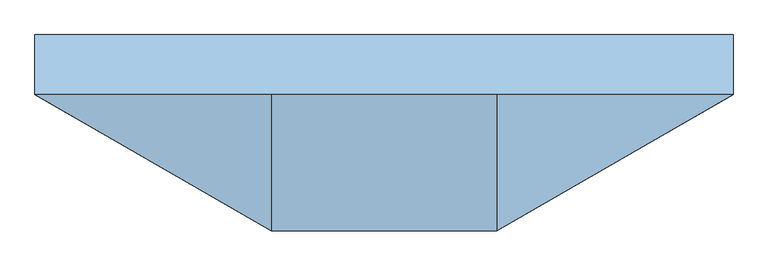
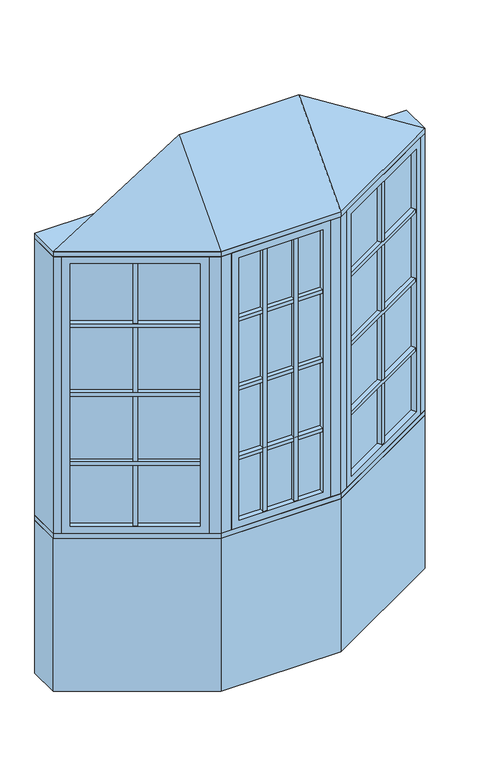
"""IFC4 building model written with IfcOpenShell, lengths in millimetres: window geometry, Pollard_Windows_Tudor Casement Bows and Bays : AML-BAY 30 AFR0514-08-600_GC."""

from ifc_helpers import new_model, si_unit, frame, origin, origin_with_axes, place, context, project, spatial, polyline, outline, extrude, faceted_brep, source, transform, mapped, element, save


def window_0ddc0329(model_context):
    return source(origin(), model_context, "Body", "SolidModel", [
        extrude(outline(polyline([(360.381999, -376.6297343), (349.381999, -357.5771754), (815.6135794, -88.3982469), (826.6135794, -107.4508058), (360.381999, -376.6297343)])), frame((0.0, 0.0, 1490.998), z_axis=(0.0, 0.0, 1.0), x_axis=(1.0, 0.0, 0.0)), (0.0, 0.0, 1.0), 18.0),
        extrude(outline(polyline([(346.841999, -353.1777664), (335.841999, -334.1252075), (802.0735794, -64.946279), (813.0735794, -83.9988379), (346.841999, -353.1777664)])), frame((0.0, 0.0, 1490.998), z_axis=(0.0, 0.0, 1.0), x_axis=(1.0, 0.0, 0.0)), (0.0, 0.0, 1.0), 18.0),
        extrude(outline(polyline([(360.381999, -376.6297343), (349.381999, -357.5771754), (815.6135794, -88.3982469), (826.6135794, -107.4508058), (360.381999, -376.6297343)])), frame((0.0, 0.0, 1140.998), z_axis=(0.0, 0.0, 1.0), x_axis=(1.0, 0.0, 0.0)), (0.0, 0.0, 1.0), 18.0),
        extrude(outline(polyline([(346.841999, -353.1777664), (335.841999, -334.1252075), (802.0735794, -64.946279), (813.0735794, -83.9988379), (346.841999, -353.1777664)])), frame((0.0, 0.0, 1140.998), z_axis=(0.0, 0.0, 1.0), x_axis=(1.0, 0.0, 0.0)), (0.0, 0.0, 1.0), 18.0),
        extrude(outline(polyline([(360.381999, -376.6297343), (349.381999, -357.5771754), (815.6135794, -88.3982469), (826.6135794, -107.4508058), (360.381999, -376.6297343)])), frame((0.0, 0.0, 1490.998), z_axis=(0.0, 0.0, 1.0), x_axis=(1.0, 0.0, 0.0)), (0.0, 0.0, 1.0), 18.0),
        extrude(outline(polyline([(346.841999, -353.1777664), (335.841999, -334.1252075), (802.0735794, -64.946279), (813.0735794, -83.9988379), (346.841999, -353.1777664)])), frame((0.0, 0.0, 1490.998), z_axis=(0.0, 0.0, 1.0), x_axis=(1.0, 0.0, 0.0)), (0.0, 0.0, 1.0), 18.0),
        extrude(outline(polyline([(360.381999, -376.6297343), (349.381999, -357.5771754), (815.6135794, -88.3982469), (826.6135794, -107.4508058), (360.381999, -376.6297343)])), frame((0.0, 0.0, 1490.998), z_axis=(0.0, 0.0, 1.0), x_axis=(1.0, 0.0, 0.0)), (0.0, 0.0, 1.0), 18.0),
        extrude(outline(polyline([(346.841999, -353.1777664), (335.841999, -334.1252075), (802.0735794, -64.946279), (813.0735794, -83.9988379), (346.841999, -353.1777664)])), frame((0.0, 0.0, 1490.998), z_axis=(0.0, 0.0, 1.0), x_axis=(1.0, 0.0, 0.0)), (0.0, 0.0, 1.0), 18.0),
        extrude(outline(polyline([(360.381999, -376.6297343), (349.381999, -357.5771754), (815.6135794, -88.3982469), (826.6135794, -107.4508058), (360.381999, -376.6297343)])), frame((0.0, 0.0, 1840.998), z_axis=(0.0, 0.0, 1.0), x_axis=(1.0, 0.0, 0.0)), (0.0, 0.0, 1.0), 18.0),
        extrude(outline(polyline([(346.841999, -353.1777664), (335.841999, -334.1252075), (802.0735794, -64.946279), (813.0735794, -83.9988379), (346.841999, -353.1777664)])), frame((0.0, 0.0, 1840.998), z_axis=(0.0, 0.0, 1.0), x_axis=(1.0, 0.0, 0.0)), (0.0, 0.0, 1.0), 18.0),
        extrude(outline(polyline([(590.2920178, -218.4877112), (601.2920178, -237.5402701), (585.7035606, -246.5402701), (574.7035606, -227.4877112), (590.2920178, -218.4877112)])), frame((0.0, 0.0, 835.8628), z_axis=(0.0, 0.0, 1.0), x_axis=(1.0, 0.0, 0.0)), (0.0, 0.0, 1.0), 1328.2704),
        extrude(outline(polyline([(587.7520178, -214.0883021), (572.1635606, -223.0883021), (561.1635606, -204.0357432), (576.7520178, -195.0357432), (587.7520178, -214.0883021)])), frame((0.0, 0.0, 835.8628), z_axis=(0.0, 0.0, 1.0), x_axis=(1.0, 0.0, 0.0)), (0.0, 0.0, 1.0), 1328.2704),
        extrude(outline(polyline([(826.612102, -82.0482469), (338.3834764, -363.9271754), (335.8434764, -359.5277664), (824.072102, -77.6488379), (826.612102, -82.0482469)])), frame((0.0, 0.0, 823.1628), z_axis=(0.0, 0.0, 1.0), x_axis=(1.0, 0.0, 0.0)), (0.0, 0.0, 1.0), 1353.6704),
        faceted_brep([(815.6135794, -88.3982469, 835.8628), (828.3135794, -110.3952922, 835.8628), (828.3135794, -110.3952922, 2164.1332), (815.6135794, -88.3982469, 2164.1332), (824.072102, -77.6488379, 823.1628), (826.612102, -82.0482469, 823.1628), (826.612102, -82.0482469, 2176.8332), (824.072102, -77.6488379, 2176.8332), (800.3735794, -62.0017926, 835.8628), (813.0735794, -83.9988379, 835.8628), (813.0735794, -83.9988379, 2164.1332), (800.3735794, -62.0017926, 2164.1332), (859.3734073, -92.4628922, 799.998), (831.4334073, -44.0693926, 799.998), (831.4334073, -44.0693926, 2199.998), (859.3734073, -92.4628922, 2199.998), (362.081999, -379.5742207, 2164.1332), (349.381999, -357.5771754, 2164.1332), (338.3834764, -363.9271754, 2176.8332), (335.8434764, -359.5277664, 2176.8332), (346.841999, -353.1777664, 2164.1332), (334.141999, -331.1807211, 2164.1332), (303.0821711, -349.1131211, 2199.998), (331.0221711, -397.5066207, 2199.998), (362.081999, -379.5742207, 835.8628), (349.381999, -357.5771754, 835.8628), (338.3834764, -363.9271754, 823.1628), (335.8434764, -359.5277664, 823.1628), (346.841999, -353.1777664, 835.8628), (334.141999, -331.1807211, 835.8628), (303.0821711, -349.1131211, 799.998), (331.0221711, -397.5066207, 799.998)], [[[0, 1, 2, 3]], [[4, 5, 6, 7]], [[8, 9, 10, 11]], [[12, 13, 14, 15]], [[3, 2, 16, 17]], [[7, 6, 18, 19]], [[11, 10, 20, 21]], [[15, 14, 22, 23]], [[17, 16, 24, 25]], [[19, 18, 26, 27]], [[21, 20, 28, 29]], [[23, 22, 30, 31]], [[25, 24, 1, 0]], [[5, 26, 18, 6], [3, 17, 25, 0]], [[27, 26, 5, 4]], [[7, 19, 27, 4], [9, 28, 20, 10]], [[29, 28, 9, 8]], [[13, 30, 22, 14], [11, 21, 29, 8]], [[31, 30, 13, 12]], [[15, 23, 31, 12], [1, 24, 16, 2]]]),
        extrude(outline(polyline([(83.5188336, -397.1066207), (83.5188336, -419.1066207), (65.5188336, -419.1066207), (65.5188336, -397.1066207), (83.5188336, -397.1066207)])), frame((0.0, 0.0, 835.8628), z_axis=(0.0, 0.0, 1.0), x_axis=(1.0, 0.0, 0.0)), (0.0, 0.0, 1.0), 1328.2704),
        extrude(outline(polyline([(83.5188336, -392.0266207), (65.5188336, -392.0266207), (65.5188336, -370.0266207), (83.5188336, -370.0266207), (83.5188336, -392.0266207)])), frame((0.0, 0.0, 835.8628), z_axis=(0.0, 0.0, 1.0), x_axis=(1.0, 0.0, 0.0)), (0.0, 0.0, 1.0), 1328.2704),
        extrude(outline(polyline([(-65.5188336, -397.1066207), (-65.5188336, -419.1066207), (-83.5188336, -419.1066207), (-83.5188336, -397.1066207), (-65.5188336, -397.1066207)])), frame((0.0, 0.0, 835.8628), z_axis=(0.0, 0.0, 1.0), x_axis=(1.0, 0.0, 0.0)), (0.0, 0.0, 1.0), 1328.2704),
        extrude(outline(polyline([(-65.5188336, -392.0266207), (-83.5188336, -392.0266207), (-83.5188336, -370.0266207), (-65.5188336, -370.0266207), (-65.5188336, -392.0266207)])), frame((0.0, 0.0, 835.8628), z_axis=(0.0, 0.0, 1.0), x_axis=(1.0, 0.0, 0.0)), (0.0, 0.0, 1.0), 1328.2704),
        extrude(outline(polyline([(-201.8561009, -419.1066207), (-201.8561009, -397.1066207), (201.8561009, -397.1066207), (201.8561009, -419.1066207), (-201.8561009, -419.1066207)])), frame((0.0, 0.0, 1140.998), z_axis=(0.0, 0.0, 1.0), x_axis=(1.0, 0.0, 0.0)), (0.0, 0.0, 1.0), 18.0),
        extrude(outline(polyline([(-201.8561009, -392.0266207), (-201.8561009, -370.0266207), (201.8561009, -370.0266207), (201.8561009, -392.0266207), (-201.8561009, -392.0266207)])), frame((0.0, 0.0, 1140.998), z_axis=(0.0, 0.0, 1.0), x_axis=(1.0, 0.0, 0.0)), (0.0, 0.0, 1.0), 18.0),
        extrude(outline(polyline([(-201.8561009, -419.1066207), (-201.8561009, -397.1066207), (201.8561009, -397.1066207), (201.8561009, -419.1066207), (-201.8561009, -419.1066207)])), frame((0.0, 0.0, 1490.998), z_axis=(0.0, 0.0, 1.0), x_axis=(1.0, 0.0, 0.0)), (0.0, 0.0, 1.0), 18.0),
        extrude(outline(polyline([(-201.8561009, -392.0266207), (-201.8561009, -370.0266207), (201.8561009, -370.0266207), (201.8561009, -392.0266207), (-201.8561009, -392.0266207)])), frame((0.0, 0.0, 1490.998), z_axis=(0.0, 0.0, 1.0), x_axis=(1.0, 0.0, 0.0)), (0.0, 0.0, 1.0), 18.0),
        extrude(outline(polyline([(-201.8561009, -419.1066207), (-201.8561009, -397.1066207), (201.8561009, -397.1066207), (201.8561009, -419.1066207), (-201.8561009, -419.1066207)])), frame((0.0, 0.0, 1490.998), z_axis=(0.0, 0.0, 1.0), x_axis=(1.0, 0.0, 0.0)), (0.0, 0.0, 1.0), 18.0),
        extrude(outline(polyline([(-201.8561009, -392.0266207), (-201.8561009, -370.0266207), (201.8561009, -370.0266207), (201.8561009, -392.0266207), (-201.8561009, -392.0266207)])), frame((0.0, 0.0, 1490.998), z_axis=(0.0, 0.0, 1.0), x_axis=(1.0, 0.0, 0.0)), (0.0, 0.0, 1.0), 18.0),
        extrude(outline(polyline([(-201.8561009, -419.1066207), (-201.8561009, -397.1066207), (201.8561009, -397.1066207), (201.8561009, -419.1066207), (-201.8561009, -419.1066207)])), frame((0.0, 0.0, 1490.998), z_axis=(0.0, 0.0, 1.0), x_axis=(1.0, 0.0, 0.0)), (0.0, 0.0, 1.0), 18.0),
        extrude(outline(polyline([(-201.8561009, -392.0266207), (-201.8561009, -370.0266207), (201.8561009, -370.0266207), (201.8561009, -392.0266207), (-201.8561009, -392.0266207)])), frame((0.0, 0.0, 1490.998), z_axis=(0.0, 0.0, 1.0), x_axis=(1.0, 0.0, 0.0)), (0.0, 0.0, 1.0), 18.0),
        extrude(outline(polyline([(-826.6135794, -107.4508058), (-815.6135794, -88.3982469), (-349.381999, -357.5771754), (-360.381999, -376.6297343), (-826.6135794, -107.4508058)])), frame((0.0, 0.0, 1140.998), z_axis=(0.0, 0.0, 1.0), x_axis=(1.0, 0.0, 0.0)), (0.0, 0.0, 1.0), 18.0),
        extrude(outline(polyline([(-813.0735794, -83.9988379), (-802.0735794, -64.946279), (-335.841999, -334.1252075), (-346.841999, -353.1777664), (-813.0735794, -83.9988379)])), frame((0.0, 0.0, 1140.998), z_axis=(0.0, 0.0, 1.0), x_axis=(1.0, 0.0, 0.0)), (0.0, 0.0, 1.0), 18.0),
        extrude(outline(polyline([(-826.6135794, -107.4508058), (-815.6135794, -88.3982469), (-349.381999, -357.5771754), (-360.381999, -376.6297343), (-826.6135794, -107.4508058)])), frame((0.0, 0.0, 1490.998), z_axis=(0.0, 0.0, 1.0), x_axis=(1.0, 0.0, 0.0)), (0.0, 0.0, 1.0), 18.0),
        extrude(outline(polyline([(-813.0735794, -83.9988379), (-802.0735794, -64.946279), (-335.841999, -334.1252075), (-346.841999, -353.1777664), (-813.0735794, -83.9988379)])), frame((0.0, 0.0, 1490.998), z_axis=(0.0, 0.0, 1.0), x_axis=(1.0, 0.0, 0.0)), (0.0, 0.0, 1.0), 18.0),
        extrude(outline(polyline([(-826.6135794, -107.4508058), (-815.6135794, -88.3982469), (-349.381999, -357.5771754), (-360.381999, -376.6297343), (-826.6135794, -107.4508058)])), frame((0.0, 0.0, 1490.998), z_axis=(0.0, 0.0, 1.0), x_axis=(1.0, 0.0, 0.0)), (0.0, 0.0, 1.0), 18.0),
        extrude(outline(polyline([(-813.0735794, -83.9988379), (-802.0735794, -64.946279), (-335.841999, -334.1252075), (-346.841999, -353.1777664), (-813.0735794, -83.9988379)])), frame((0.0, 0.0, 1490.998), z_axis=(0.0, 0.0, 1.0), x_axis=(1.0, 0.0, 0.0)), (0.0, 0.0, 1.0), 18.0),
        extrude(outline(polyline([(-826.6135794, -107.4508058), (-815.6135794, -88.3982469), (-349.381999, -357.5771754), (-360.381999, -376.6297343), (-826.6135794, -107.4508058)])), frame((0.0, 0.0, 1490.998), z_axis=(0.0, 0.0, 1.0), x_axis=(1.0, 0.0, 0.0)), (0.0, 0.0, 1.0), 18.0),
        extrude(outline(polyline([(-813.0735794, -83.9988379), (-802.0735794, -64.946279), (-335.841999, -334.1252075), (-346.841999, -353.1777664), (-813.0735794, -83.9988379)])), frame((0.0, 0.0, 1490.998), z_axis=(0.0, 0.0, 1.0), x_axis=(1.0, 0.0, 0.0)), (0.0, 0.0, 1.0), 18.0),
        extrude(outline(polyline([(-826.6135794, -107.4508058), (-815.6135794, -88.3982469), (-349.381999, -357.5771754), (-360.381999, -376.6297343), (-826.6135794, -107.4508058)])), frame((0.0, 0.0, 1840.998), z_axis=(0.0, 0.0, 1.0), x_axis=(1.0, 0.0, 0.0)), (0.0, 0.0, 1.0), 18.0),
        extrude(outline(polyline([(-813.0735794, -83.9988379), (-802.0735794, -64.946279), (-335.841999, -334.1252075), (-346.841999, -353.1777664), (-813.0735794, -83.9988379)])), frame((0.0, 0.0, 1840.998), z_axis=(0.0, 0.0, 1.0), x_axis=(1.0, 0.0, 0.0)), (0.0, 0.0, 1.0), 18.0),
        extrude(outline(polyline([(-201.8561009, -419.1066207), (-201.8561009, -397.1066207), (201.8561009, -397.1066207), (201.8561009, -419.1066207), (-201.8561009, -419.1066207)])), frame((0.0, 0.0, 1840.998), z_axis=(0.0, 0.0, 1.0), x_axis=(1.0, 0.0, 0.0)), (0.0, 0.0, 1.0), 18.0),
        extrude(outline(polyline([(-201.8561009, -392.0266207), (-201.8561009, -370.0266207), (201.8561009, -370.0266207), (201.8561009, -392.0266207), (-201.8561009, -392.0266207)])), frame((0.0, 0.0, 1840.998), z_axis=(0.0, 0.0, 1.0), x_axis=(1.0, 0.0, 0.0)), (0.0, 0.0, 1.0), 18.0),
        extrude(outline(polyline([(-574.7035606, -227.4877112), (-585.7035606, -246.5402701), (-601.2920178, -237.5402701), (-590.2920178, -218.4877112), (-574.7035606, -227.4877112)])), frame((0.0, 0.0, 835.8628), z_axis=(0.0, 0.0, 1.0), x_axis=(1.0, 0.0, 0.0)), (0.0, 0.0, 1.0), 1328.2704),
        extrude(outline(polyline([(-572.1635606, -223.0883021), (-587.7520178, -214.0883021), (-576.7520178, -195.0357432), (-561.1635606, -204.0357432), (-572.1635606, -223.0883021)])), frame((0.0, 0.0, 835.8628), z_axis=(0.0, 0.0, 1.0), x_axis=(1.0, 0.0, 0.0)), (0.0, 0.0, 1.0), 1328.2704),
        extrude(outline(polyline([(-338.3834764, -363.9271754), (-826.612102, -82.0482469), (-824.072102, -77.6488379), (-335.8434764, -359.5277664), (-338.3834764, -363.9271754)])), frame((0.0, 0.0, 823.1628), z_axis=(0.0, 0.0, 1.0), x_axis=(1.0, 0.0, 0.0)), (0.0, 0.0, 1.0), 1353.6704),
        faceted_brep([(-346.841999, -353.1777664, 2164.1332), (-334.141999, -331.1807211, 2164.1332), (-334.141999, -331.1807211, 835.8628), (-346.841999, -353.1777664, 835.8628), (-338.3834764, -363.9271754, 2176.8332), (-335.8434764, -359.5277664, 2176.8332), (-335.8434764, -359.5277664, 823.1628), (-338.3834764, -363.9271754, 823.1628), (-362.081999, -379.5742207, 2164.1332), (-349.381999, -357.5771754, 2164.1332), (-349.381999, -357.5771754, 835.8628), (-362.081999, -379.5742207, 835.8628), (-303.0821711, -349.1131211, 2199.998), (-331.0221711, -397.5066207, 2199.998), (-331.0221711, -397.5066207, 799.998), (-303.0821711, -349.1131211, 799.998), (-800.3735794, -62.0017926, 835.8628), (-813.0735794, -83.9988379, 835.8628), (-824.072102, -77.6488379, 823.1628), (-826.612102, -82.0482469, 823.1628), (-815.6135794, -88.3982469, 835.8628), (-828.3135794, -110.3952922, 835.8628), (-859.3734073, -92.4628922, 799.998), (-831.4334073, -44.0693926, 799.998), (-800.3735794, -62.0017926, 2164.1332), (-813.0735794, -83.9988379, 2164.1332), (-824.072102, -77.6488379, 2176.8332), (-826.612102, -82.0482469, 2176.8332), (-815.6135794, -88.3982469, 2164.1332), (-828.3135794, -110.3952922, 2164.1332), (-859.3734073, -92.4628922, 2199.998), (-831.4334073, -44.0693926, 2199.998)], [[[0, 1, 2, 3]], [[4, 5, 6, 7]], [[8, 9, 10, 11]], [[12, 13, 14, 15]], [[3, 2, 16, 17]], [[7, 6, 18, 19]], [[11, 10, 20, 21]], [[15, 14, 22, 23]], [[17, 16, 24, 25]], [[19, 18, 26, 27]], [[21, 20, 28, 29]], [[23, 22, 30, 31]], [[15, 23, 31, 12], [1, 24, 16, 2]], [[25, 24, 1, 0]], [[5, 26, 18, 6], [3, 17, 25, 0]], [[27, 26, 5, 4]], [[7, 19, 27, 4], [9, 28, 20, 10]], [[29, 28, 9, 8]], [[13, 30, 22, 14], [11, 21, 29, 8]], [[31, 30, 13, 12]]]),
        extrude(outline(polyline([(214.5561009, -397.1066207), (-214.5561009, -397.1066207), (-214.5561009, -392.0266207), (214.5561009, -392.0266207), (214.5561009, -397.1066207)])), frame((0.0, 0.0, 823.1628), z_axis=(0.0, 0.0, 1.0), x_axis=(1.0, 0.0, 0.0)), (0.0, 0.0, 1.0), 1353.6704),
        faceted_brep([(201.8561009, -397.1066207, 835.8628), (201.8561009, -422.5066207, 835.8628), (201.8561009, -422.5066207, 2164.1332), (201.8561009, -397.1066207, 2164.1332), (214.5561009, -392.0266207, 823.1628), (214.5561009, -397.1066207, 823.1628), (214.5561009, -397.1066207, 2176.8332), (214.5561009, -392.0266207, 2176.8332), (201.8561009, -366.6266207, 835.8628), (201.8561009, -392.0266207, 835.8628), (201.8561009, -392.0266207, 2164.1332), (201.8561009, -366.6266207, 2164.1332), (237.7209009, -422.5066207, 799.998), (237.7209009, -366.6266207, 799.998), (237.7209009, -366.6266207, 2199.998), (237.7209009, -422.5066207, 2199.998), (-201.8561009, -422.5066207, 2164.1332), (-201.8561009, -397.1066207, 2164.1332), (-214.5561009, -397.1066207, 2176.8332), (-214.5561009, -392.0266207, 2176.8332), (-201.8561009, -392.0266207, 2164.1332), (-201.8561009, -366.6266207, 2164.1332), (-237.7209009, -366.6266207, 2199.998), (-237.7209009, -422.5066207, 2199.998), (-201.8561009, -422.5066207, 835.8628), (-201.8561009, -397.1066207, 835.8628), (-214.5561009, -397.1066207, 823.1628), (-214.5561009, -392.0266207, 823.1628), (-201.8561009, -392.0266207, 835.8628), (-201.8561009, -366.6266207, 835.8628), (-237.7209009, -366.6266207, 799.998), (-237.7209009, -422.5066207, 799.998)], [[[0, 1, 2, 3]], [[4, 5, 6, 7]], [[8, 9, 10, 11]], [[12, 13, 14, 15]], [[3, 2, 16, 17]], [[7, 6, 18, 19]], [[11, 10, 20, 21]], [[15, 14, 22, 23]], [[17, 16, 24, 25]], [[19, 18, 26, 27]], [[21, 20, 28, 29]], [[23, 22, 30, 31]], [[15, 23, 31, 12], [1, 24, 16, 2]], [[25, 24, 1, 0]], [[5, 26, 18, 6], [3, 17, 25, 0]], [[27, 26, 5, 4]], [[7, 19, 27, 4], [9, 28, 20, 10]], [[29, 28, 9, 8]], [[13, 30, 22, 14], [11, 21, 29, 8]], [[31, 30, 13, 12]]]),
        faceted_brep([(890.0, -74.7806207, 2225.398), (287.7209009, -422.5066207, 2225.398), (-287.7209009, -422.5066207, 2225.398), (-890.0, -74.7806207, 2225.398), (-287.7209009, -74.7806207, 2606.398), (287.7209009, -74.7806207, 2606.398)], [[[0, 1, 2, 3]], [[3, 2, 4]], [[2, 1, 5, 4]], [[1, 0, 5]], [[0, 3, 4, 5]]]),
        extrude(outline(polyline([(-890.0, 77.6193793), (890.0, 77.6193793), (890.0, -74.7806207), (287.7209009, -422.5066207), (-287.7209009, -422.5066207), (-890.0, -74.7806207), (-890.0, 77.6193793)])), frame((0.0, 0.0, 2199.998), z_axis=(0.0, 0.0, 1.0), x_axis=(1.0, 0.0, 0.0)), (0.0, 0.0, 1.0), 25.4),
        extrude(outline(polyline([(-890.0, -74.7806207), (-890.0, 77.6193793), (-849.1645431, 77.6193793), (-849.1645431, -74.7806207), (-859.3734073, -92.4628922), (-890.0, -74.7806207)])), frame((0.0, 0.0, 799.998), z_axis=(0.0, 0.0, 1.0), x_axis=(1.0, 0.0, 0.0)), (0.0, 0.0, 1.0), 1400.0),
        extrude(outline(polyline([(890.0, 77.6193793), (890.0, -74.7806207), (859.3734073, -92.4628922), (849.1645431, -74.7806207), (849.1645431, 77.6193793), (890.0, 77.6193793)])), frame((0.0, 0.0, 799.998), z_axis=(0.0, 0.0, 1.0), x_axis=(1.0, 0.0, 0.0)), (0.0, 0.0, 1.0), 1400.0),
        extrude(outline(polyline([(287.7209009, -422.5066207), (237.7209009, -422.5066207), (237.7209009, -372.5066207), (274.3234413, -372.5066207), (306.0221711, -354.2053505), (331.0221711, -397.5066207), (287.7209009, -422.5066207)])), frame((0.0, 0.0, 799.998), z_axis=(0.0, 0.0, 1.0), x_axis=(1.0, 0.0, 0.0)), (0.0, 0.0, 1.0), 1400.0),
        extrude(outline(polyline([(-287.7209009, -422.5066207), (-331.0221711, -397.5066207), (-306.0221711, -354.2053505), (-274.3234413, -372.5066207), (-237.7209009, -372.5066207), (-237.7209009, -422.5066207), (-287.7209009, -422.5066207)])), frame((0.0, 0.0, 799.998), z_axis=(0.0, 0.0, 1.0), x_axis=(1.0, 0.0, 0.0)), (0.0, 0.0, 1.0), 1400.0),
        extrude(outline(polyline([(-287.7209009, -422.5066207), (-890.0, -74.7806207), (-890.0, 77.6193793), (-849.1645431, 77.6193793), (-246.885444, -270.1066207), (246.885444, -270.1066207), (849.1645431, 77.6193793), (890.0, 77.6193793), (890.0, -74.7806207), (287.7209009, -422.5066207), (-287.7209009, -422.5066207)])), frame((0.0, 0.0, 774.598), z_axis=(0.0, 0.0, 1.0), x_axis=(1.0, 0.0, 0.0)), (0.0, 0.0, 1.0), 25.4),
        extrude(outline(polyline([(-890.0, -74.7806207), (-890.0, 77.6193793), (-849.1645431, 77.6193793), (-246.885444, -270.1066207), (246.885444, -270.1066207), (849.1645431, 77.6193793), (890.0, 77.6193793), (890.0, -74.7806207), (287.7209009, -422.5066207), (-287.7209009, -422.5066207), (-890.0, -74.7806207)])), origin_with_axes(), (0.0, 0.0, 1.0), 774.598),
    ])


if __name__ == "__main__":
    model = new_model("IFC4")
    model_context = context("Model", 3, world=origin())
    ifc_project = project(units=[si_unit("LENGTHUNIT", "METRE", prefix="MILLI")], contexts=[model_context])
    site = spatial("IfcSite", under=ifc_project)
    building = spatial("IfcBuilding", under=site)
    placement = place(None, origin())
    window_shape = window_0ddc0329(model_context)
    element("IfcWindow", 1, ObjectType="Pollard_Windows_Tudor Casement Bows and Bays : AML-BAY 30 AFR0514-08-600_GC", at=placement, inside=building, context=model_context, shape_type="MappedRepresentation", body=[
        mapped(window_shape, transform((0.0, 0.0, 0.0), x_axis=(1.0, 0.0, 0.0), y_axis=(0.0, 1.0, 0.0), z_axis=(0.0, 0.0, 1.0))),
    ])
    save(model, "model.ifc")
